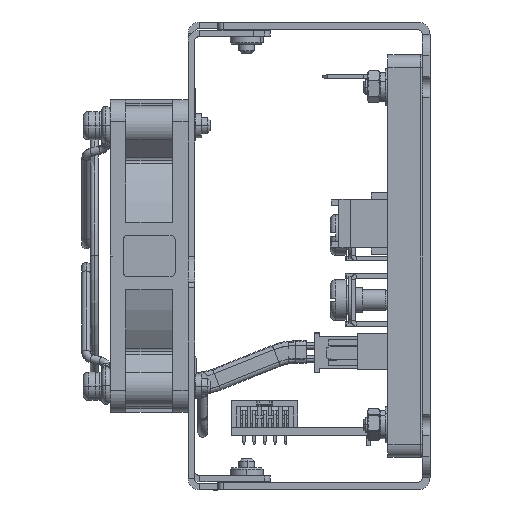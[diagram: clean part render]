
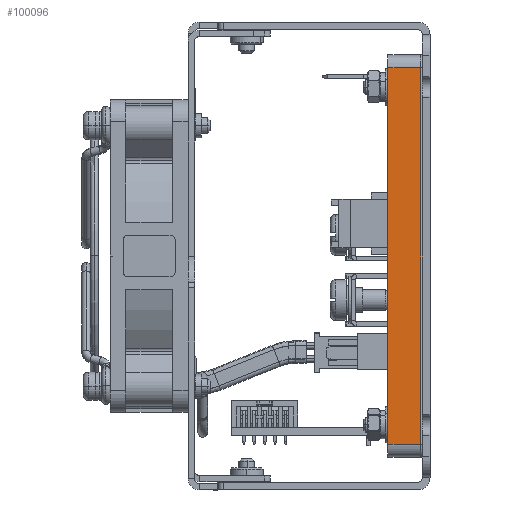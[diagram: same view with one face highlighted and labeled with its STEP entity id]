
A CAD part, left-side view. The second image highlights one B-rep face of the part: STEP entity #100096.
In plain terms, the highlighted planar face has unit normal (-1, 0, 0).
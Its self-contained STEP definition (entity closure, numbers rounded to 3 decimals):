
#6777 = EDGE_CURVE ( 'NONE', #131404, #116805, #142693, .T. ) ;
#17171 = ORIENTED_EDGE ( 'NONE', *, *, #87147, .F. ) ;
#20192 = CARTESIAN_POINT ( 'NONE',  ( -63.8, 0.3, -36.1 ) ) ;
#20327 = LINE ( 'NONE', #29054, #107607 ) ;
#27226 = EDGE_CURVE ( 'NONE', #104429, #136710, #38136, .T. ) ;
#29054 = CARTESIAN_POINT ( 'NONE',  ( -63.8, 6.6, -38.6 ) ) ;
#37384 = CARTESIAN_POINT ( 'NONE',  ( -63.8, 6.6, 36.1 ) ) ;
#38136 = LINE ( 'NONE', #87726, #53768 ) ;
#46952 = PLANE ( 'NONE',  #119410 ) ;
#48114 = ORIENTED_EDGE ( 'NONE', *, *, #85637, .T. ) ;
#53768 = VECTOR ( 'NONE', #148322, 1000. ) ;
#59946 = VECTOR ( 'NONE', #81353, 1000. ) ;
#61105 = DIRECTION ( 'NONE',  ( 1., 0., 0. ) ) ;
#80840 = CARTESIAN_POINT ( 'NONE',  ( -63.8, 6.6, -36.1 ) ) ;
#81353 = DIRECTION ( 'NONE',  ( 0., -1., 0. ) ) ;
#85637 = EDGE_CURVE ( 'NONE', #116805, #104429, #118309, .T. ) ;
#87147 = EDGE_CURVE ( 'NONE', #131404, #136710, #20327, .T. ) ;
#87726 = CARTESIAN_POINT ( 'NONE',  ( -63.8, 6.6, 36.1 ) ) ;
#93163 = CARTESIAN_POINT ( 'NONE',  ( -63.8, 6.6, -36.1 ) ) ;
#95196 = ORIENTED_EDGE ( 'NONE', *, *, #27226, .T. ) ;
#98756 = CARTESIAN_POINT ( 'NONE',  ( -63.8, 0.3, 36.1 ) ) ;
#100096 = ADVANCED_FACE ( 'NONE', ( #131156 ), #46952, .F. ) ;
#104429 = VERTEX_POINT ( 'NONE', #98756 ) ;
#107250 = CARTESIAN_POINT ( 'NONE',  ( -63.8, 0.3, -38.6 ) ) ;
#107607 = VECTOR ( 'NONE', #113295, 1000. ) ;
#108214 = EDGE_LOOP ( 'NONE', ( #142947, #48114, #95196, #17171 ) ) ;
#113295 = DIRECTION ( 'NONE',  ( 0., 0., 1. ) ) ;
#116805 = VERTEX_POINT ( 'NONE', #20192 ) ;
#118309 = LINE ( 'NONE', #107250, #150167 ) ;
#119410 = AXIS2_PLACEMENT_3D ( 'NONE', #144459, #61105, #131929 ) ;
#131156 = FACE_OUTER_BOUND ( 'NONE', #108214, .T. ) ;
#131404 = VERTEX_POINT ( 'NONE', #80840 ) ;
#131929 = DIRECTION ( 'NONE',  ( 0., 0., -1. ) ) ;
#132430 = DIRECTION ( 'NONE',  ( 0., 0., 1. ) ) ;
#136710 = VERTEX_POINT ( 'NONE', #37384 ) ;
#142693 = LINE ( 'NONE', #93163, #59946 ) ;
#142947 = ORIENTED_EDGE ( 'NONE', *, *, #6777, .T. ) ;
#144459 = CARTESIAN_POINT ( 'NONE',  ( -63.8, 6.6, -38.6 ) ) ;
#148322 = DIRECTION ( 'NONE',  ( 0., 1., 0. ) ) ;
#150167 = VECTOR ( 'NONE', #132430, 1000. ) ;
